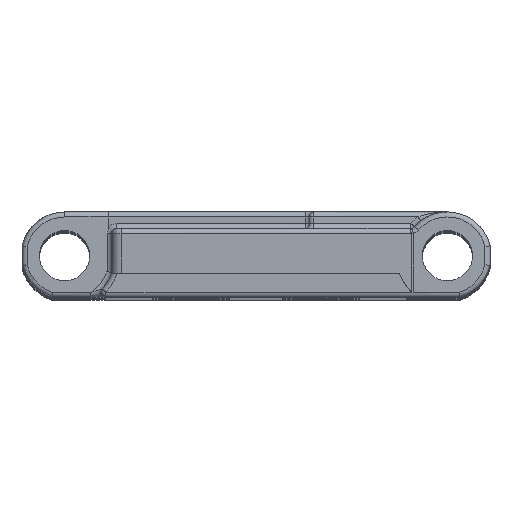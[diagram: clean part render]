
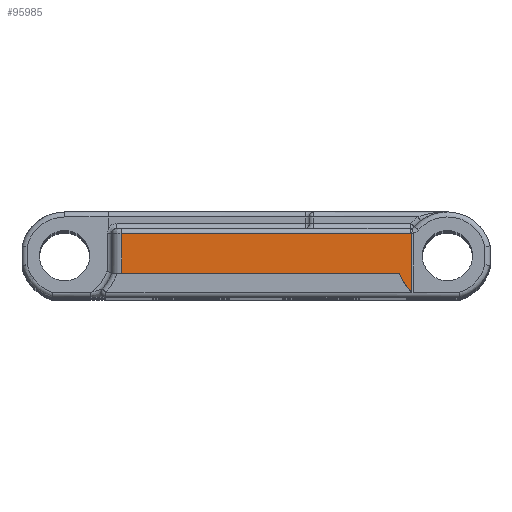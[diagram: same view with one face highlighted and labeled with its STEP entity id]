
A CAD part, top view. The second image highlights one B-rep face of the part: STEP entity #95985.
In plain terms, the highlighted planar face has unit normal (0, 0, 1).
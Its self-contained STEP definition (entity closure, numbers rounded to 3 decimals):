
#12013=DIRECTION('',(1.,0.,0.));
#12014=VECTOR('',#12013,27.636);
#12015=CARTESIAN_POINT('',(-13.366,-1.763,76.15));
#12016=LINE('',#12015,#12014);
#32008=DIRECTION('',(-1.,0.,0.));
#32009=VECTOR('',#32008,28.772);
#32010=CARTESIAN_POINT('',(15.406,2.2,76.15));
#32011=LINE('',#32010,#32009);
#32012=CARTESIAN_POINT('',(15.406,3.2,76.15));
#32013=DIRECTION('',(0.,0.,-1.));
#32014=DIRECTION('',(0.034,-0.999,0.));
#32015=AXIS2_PLACEMENT_3D('',#32012,#32013,#32014);
#32017=DIRECTION('',(0.,-1.,0.));
#32018=VECTOR('',#32017,5.8);
#32019=CARTESIAN_POINT('',(15.44,2.201,76.15));
#32020=LINE('',#32019,#32018);
#32021=CARTESIAN_POINT('',(19.067,0.,76.15));
#32022=DIRECTION('',(0.,0.,1.));
#32023=DIRECTION('',(-0.939,-0.345,0.));
#32024=AXIS2_PLACEMENT_3D('',#32021,#32022,#32023);
#32026=DIRECTION('',(0.,1.,0.));
#32027=VECTOR('',#32026,3.963);
#32028=CARTESIAN_POINT('',(-13.366,-1.763,76.15));
#32029=LINE('',#32028,#32027);
#53779=CARTESIAN_POINT('',(-13.366,-1.763,76.15));
#53780=CARTESIAN_POINT('',(14.271,-1.763,76.15));
#53781=VERTEX_POINT('',#53779);
#53782=VERTEX_POINT('',#53780);
#53785=CARTESIAN_POINT('',(15.44,-3.6,76.15));
#53786=VERTEX_POINT('',#53785);
#55153=CARTESIAN_POINT('',(-13.366,2.2,76.15));
#55155=VERTEX_POINT('',#55153);
#55161=CARTESIAN_POINT('',(15.406,2.2,76.15));
#55162=VERTEX_POINT('',#55161);
#55165=CARTESIAN_POINT('',(15.44,2.201,76.15));
#55166=VERTEX_POINT('',#55165);
#95971=CARTESIAN_POINT('',(-13.366,-1.763,76.15));
#95972=DIRECTION('',(0.,0.,1.));
#95973=DIRECTION('',(1.,0.,0.));
#95974=AXIS2_PLACEMENT_3D('',#95971,#95972,#95973);
#95975=PLANE('',#95974);
#95976=ORIENTED_EDGE('',*,*,#95961,.F.);
#95978=ORIENTED_EDGE('',*,*,#95977,.F.);
#95979=ORIENTED_EDGE('',*,*,#63855,.T.);
#95980=ORIENTED_EDGE('',*,*,#63796,.F.);
#95981=ORIENTED_EDGE('',*,*,#68549,.F.);
#95982=ORIENTED_EDGE('',*,*,#68578,.T.);
#95983=EDGE_LOOP('',(#95976,#95978,#95979,#95980,#95981,#95982));
#95984=FACE_OUTER_BOUND('',#95983,.F.);
#32016=CIRCLE('',#32015,1.);
#32025=CIRCLE('',#32024,5.11);
#63796=EDGE_CURVE('',#53782,#53786,#32025,.T.);
#63855=EDGE_CURVE('',#55166,#53786,#32020,.T.);
#68549=EDGE_CURVE('',#53781,#53782,#12016,.T.);
#68578=EDGE_CURVE('',#53781,#55155,#32029,.T.);
#95961=EDGE_CURVE('',#55162,#55155,#32011,.T.);
#95977=EDGE_CURVE('',#55166,#55162,#32016,.T.);
#95985=ADVANCED_FACE('',(#95984),#95975,.T.);
